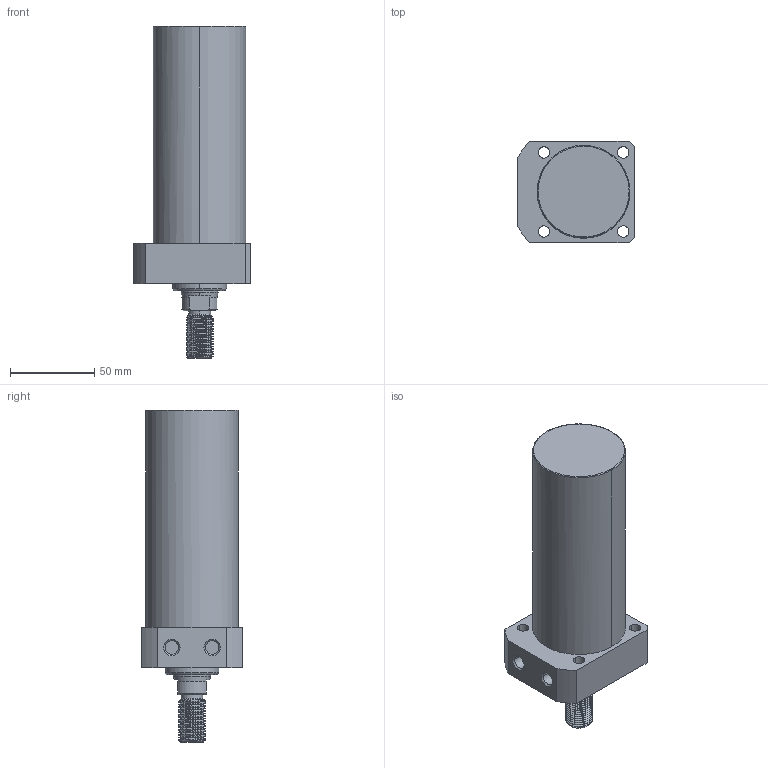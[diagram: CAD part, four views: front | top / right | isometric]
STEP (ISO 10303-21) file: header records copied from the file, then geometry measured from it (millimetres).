
FILE_DESCRIPTION((' '),'2;1');
FILE_NAME( 'TLLR-055CT-100.STEP.stp', '2025-10-24T16:34:48', (' '), ('--- Datakit www.datakit.com---'), ' Datakit CrossCadWare V2024.1 Dec 21 2023', 'Mastercam 2025', ' ');
FILE_SCHEMA(('AUTOMOTIVE_DESIGN { 1 0 10303 214 1 1 1 1 }'));
Length unit declared in the file: millimetre
Products named in the file (1): TLLR-055CT-100
Bounding box: 69 x 60 x 197 mm (x, y, z)
Volume: 411088.3 mm3; surface area: 42200.7 mm2
Topology: 1 solids, 1 shells, 101 faces, 360 edges, 269 vertices
Faces by surface type: cylinder 61, plane 20, cone 16, bspline 2, torus 2
Entity records: 11714 total; most frequent: CARTESIAN_POINT 8611, ORIENTED_EDGE 720, DIRECTION 518, EDGE_CURVE 360, VERTEX_POINT 269, AXIS2_PLACEMENT_3D 210, B_SPLINE_CURVE_WITH_KNOTS 152, EDGE_LOOP 117
